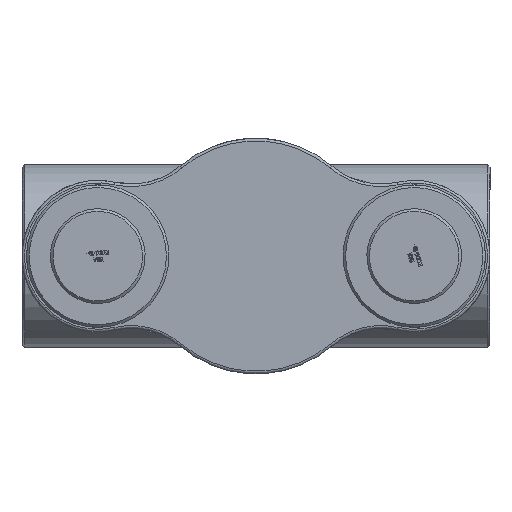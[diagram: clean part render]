
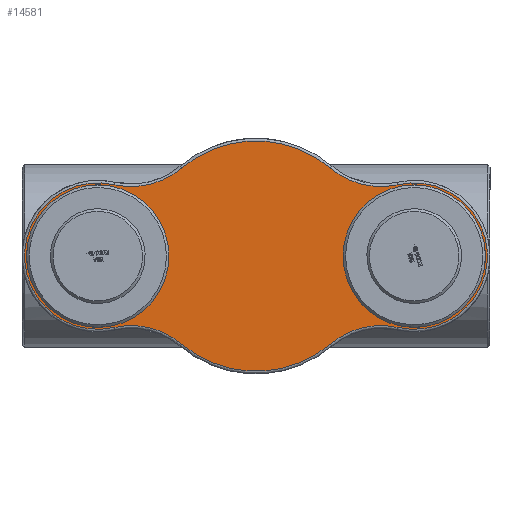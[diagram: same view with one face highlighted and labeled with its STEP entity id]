
A CAD part, front view. The second image highlights one B-rep face of the part: STEP entity #14581.
In plain terms, the highlighted planar face has unit normal (0, -1, 0) as drawn and (0, 0, -1) by its records, which use the part's own axes.
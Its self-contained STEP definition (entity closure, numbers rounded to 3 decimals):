
#3817=PLANE('',#15523);
#4258=FACE_BOUND('',#5221,.T.);
#4259=FACE_BOUND('',#5222,.T.);
#4367=FACE_OUTER_BOUND('',#5220,.T.);
#5220=EDGE_LOOP('',(#10096,#10097,#10098,#10099,#10100,#10101,#10102,#10103));
#5221=EDGE_LOOP('',(#10104));
#5222=EDGE_LOOP('',(#10105));
#6180=CIRCLE('',#15522,101.5);
#6181=CIRCLE('',#15524,143.);
#6182=CIRCLE('',#15525,153.);
#6183=CIRCLE('',#15526,225.);
#6184=CIRCLE('',#15527,153.);
#6185=CIRCLE('',#15528,143.);
#6186=CIRCLE('',#15529,153.);
#6187=CIRCLE('',#15530,225.);
#6188=CIRCLE('',#15531,153.);
#6189=CIRCLE('',#15532,101.5);
#6374=VERTEX_POINT('',#19163);
#6375=VERTEX_POINT('',#19166);
#6376=VERTEX_POINT('',#19167);
#6377=VERTEX_POINT('',#19169);
#6378=VERTEX_POINT('',#19171);
#6379=VERTEX_POINT('',#19173);
#6380=VERTEX_POINT('',#19175);
#6381=VERTEX_POINT('',#19177);
#6382=VERTEX_POINT('',#19179);
#6383=VERTEX_POINT('',#19182);
#7862=EDGE_CURVE('',#6374,#6374,#6180,.T.);
#7863=EDGE_CURVE('',#6375,#6376,#6181,.T.);
#7864=EDGE_CURVE('',#6377,#6375,#6182,.T.);
#7865=EDGE_CURVE('',#6378,#6377,#6183,.T.);
#7866=EDGE_CURVE('',#6379,#6378,#6184,.T.);
#7867=EDGE_CURVE('',#6380,#6379,#6185,.T.);
#7868=EDGE_CURVE('',#6381,#6380,#6186,.T.);
#7869=EDGE_CURVE('',#6382,#6381,#6187,.T.);
#7870=EDGE_CURVE('',#6376,#6382,#6188,.T.);
#7871=EDGE_CURVE('',#6383,#6383,#6189,.T.);
#10096=ORIENTED_EDGE('',*,*,#7863,.F.);
#10097=ORIENTED_EDGE('',*,*,#7864,.F.);
#10098=ORIENTED_EDGE('',*,*,#7865,.F.);
#10099=ORIENTED_EDGE('',*,*,#7866,.F.);
#10100=ORIENTED_EDGE('',*,*,#7867,.F.);
#10101=ORIENTED_EDGE('',*,*,#7868,.F.);
#10102=ORIENTED_EDGE('',*,*,#7869,.F.);
#10103=ORIENTED_EDGE('',*,*,#7870,.F.);
#10104=ORIENTED_EDGE('',*,*,#7871,.F.);
#10105=ORIENTED_EDGE('',*,*,#7862,.F.);
#14581=ADVANCED_FACE('',(#4367,#4258,#4259),#3817,.F.);
#15522=AXIS2_PLACEMENT_3D('',#19164,#16297,#16298);
#15523=AXIS2_PLACEMENT_3D('',#19165,#16299,#16300);
#15524=AXIS2_PLACEMENT_3D('',#19168,#16301,#16302);
#15525=AXIS2_PLACEMENT_3D('',#19170,#16303,#16304);
#15526=AXIS2_PLACEMENT_3D('',#19172,#16305,#16306);
#15527=AXIS2_PLACEMENT_3D('',#19174,#16307,#16308);
#15528=AXIS2_PLACEMENT_3D('',#19176,#16309,#16310);
#15529=AXIS2_PLACEMENT_3D('',#19178,#16311,#16312);
#15530=AXIS2_PLACEMENT_3D('',#19180,#16313,#16314);
#15531=AXIS2_PLACEMENT_3D('',#19181,#16315,#16316);
#15532=AXIS2_PLACEMENT_3D('',#19183,#16317,#16318);
#16297=DIRECTION('center_axis',(0.,0.,-1.));
#16298=DIRECTION('ref_axis',(1.,0.,0.));
#16299=DIRECTION('center_axis',(0.,0.,1.));
#16300=DIRECTION('ref_axis',(1.,0.,0.));
#16301=DIRECTION('center_axis',(0.,0.,1.));
#16302=DIRECTION('ref_axis',(-1.,0.,0.));
#16303=DIRECTION('center_axis',(0.,0.,-1.));
#16304=DIRECTION('ref_axis',(0.238,-0.971,0.));
#16305=DIRECTION('center_axis',(0.,0.,1.));
#16306=DIRECTION('ref_axis',(0.,1.,0.));
#16307=DIRECTION('center_axis',(0.,0.,-1.));
#16308=DIRECTION('ref_axis',(-0.238,-0.971,0.));
#16309=DIRECTION('center_axis',(0.,0.,1.));
#16310=DIRECTION('ref_axis',(1.,0.,0.));
#16311=DIRECTION('center_axis',(0.,0.,-1.));
#16312=DIRECTION('ref_axis',(-0.238,0.971,0.));
#16313=DIRECTION('center_axis',(0.,0.,1.));
#16314=DIRECTION('ref_axis',(0.,-1.,0.));
#16315=DIRECTION('center_axis',(0.,0.,-1.));
#16316=DIRECTION('ref_axis',(0.238,0.971,0.));
#16317=DIRECTION('center_axis',(0.,0.,-1.));
#16318=DIRECTION('ref_axis',(1.,0.,0.));
#19163=CARTESIAN_POINT('',(207.5,0.,0.));
#19164=CARTESIAN_POINT('Origin',(309.,0.,0.));
#19165=CARTESIAN_POINT('Origin',(0.,0.,0.));
#19166=CARTESIAN_POINT('',(-277.564,139.502,0.));
#19167=CARTESIAN_POINT('',(-277.564,-139.502,0.));
#19168=CARTESIAN_POINT('Origin',(-309.,0.,0.));
#19169=CARTESIAN_POINT('',(-145.197,171.881,0.));
#19170=CARTESIAN_POINT('Origin',(-243.93,288.759,0.));
#19171=CARTESIAN_POINT('',(145.197,171.881,0.));
#19172=CARTESIAN_POINT('Origin',(0.,0.,0.));
#19173=CARTESIAN_POINT('',(277.564,139.502,0.));
#19174=CARTESIAN_POINT('Origin',(243.93,288.759,0.));
#19175=CARTESIAN_POINT('',(277.564,-139.502,0.));
#19176=CARTESIAN_POINT('Origin',(309.,0.,0.));
#19177=CARTESIAN_POINT('',(145.197,-171.881,0.));
#19178=CARTESIAN_POINT('Origin',(243.93,-288.759,0.));
#19179=CARTESIAN_POINT('',(-145.197,-171.881,0.));
#19180=CARTESIAN_POINT('Origin',(0.,0.,0.));
#19181=CARTESIAN_POINT('Origin',(-243.93,-288.759,0.));
#19182=CARTESIAN_POINT('',(-410.5,0.,0.));
#19183=CARTESIAN_POINT('Origin',(-309.,0.,0.));
